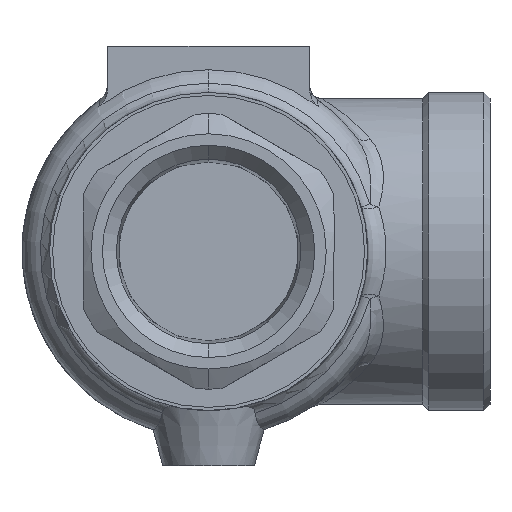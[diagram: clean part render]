
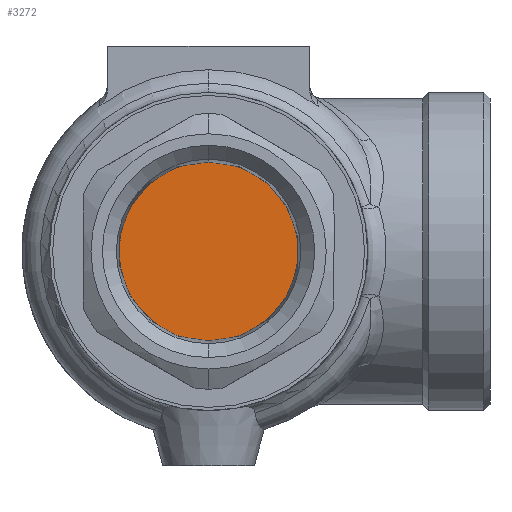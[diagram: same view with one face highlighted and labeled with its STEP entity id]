
A CAD part, front view. The second image highlights one B-rep face of the part: STEP entity #3272.
In plain terms, the highlighted planar face has unit normal (0, -1, 0).
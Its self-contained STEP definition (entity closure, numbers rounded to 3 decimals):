
#142 = CARTESIAN_POINT ( 'NONE',  ( -14.63, -39., 0. ) ) ;
#229 = DIRECTION ( 'NONE',  ( 0., 1., 0. ) ) ;
#486 = ORIENTED_EDGE ( 'NONE', *, *, #2012, .F. ) ;
#620 = ORIENTED_EDGE ( 'NONE', *, *, #905, .F. ) ;
#723 = AXIS2_PLACEMENT_3D ( 'NONE', #3377, #229, #1901 ) ;
#814 = DIRECTION ( 'NONE',  ( 0., 1., 0. ) ) ;
#833 = DIRECTION ( 'NONE',  ( 0., 0., 1. ) ) ;
#845 = AXIS2_PLACEMENT_3D ( 'NONE', #142, #814, #3737 ) ;
#857 = DIRECTION ( 'NONE',  ( 0., 1., 0. ) ) ;
#905 = EDGE_CURVE ( 'NONE', #2851, #1451, #4014, .T. ) ;
#1162 = EDGE_LOOP ( 'NONE', ( #620, #486 ) ) ;
#1451 = VERTEX_POINT ( 'NONE', #2271 ) ;
#1901 = DIRECTION ( 'NONE',  ( 0., 0., 1. ) ) ;
#2012 = EDGE_CURVE ( 'NONE', #1451, #2851, #3772, .T. ) ;
#2271 = CARTESIAN_POINT ( 'NONE',  ( 0., -39., 14.63 ) ) ;
#2588 = AXIS2_PLACEMENT_3D ( 'NONE', #3654, #857, #833 ) ;
#2662 = FACE_OUTER_BOUND ( 'NONE', #1162, .T. ) ;
#2851 = VERTEX_POINT ( 'NONE', #3705 ) ;
#3272 = ADVANCED_FACE ( 'NONE', ( #2662 ), #4421, .F. ) ;
#3377 = CARTESIAN_POINT ( 'NONE',  ( 0., -39., 0. ) ) ;
#3654 = CARTESIAN_POINT ( 'NONE',  ( 0., -39., 0. ) ) ;
#3705 = CARTESIAN_POINT ( 'NONE',  ( 0., -39., -14.63 ) ) ;
#3737 = DIRECTION ( 'NONE',  ( 0., 0., 1. ) ) ;
#3772 = CIRCLE ( 'NONE', #723, 14.63 ) ;
#4014 = CIRCLE ( 'NONE', #2588, 14.63 ) ;
#4421 = PLANE ( 'NONE',  #845 ) ;
